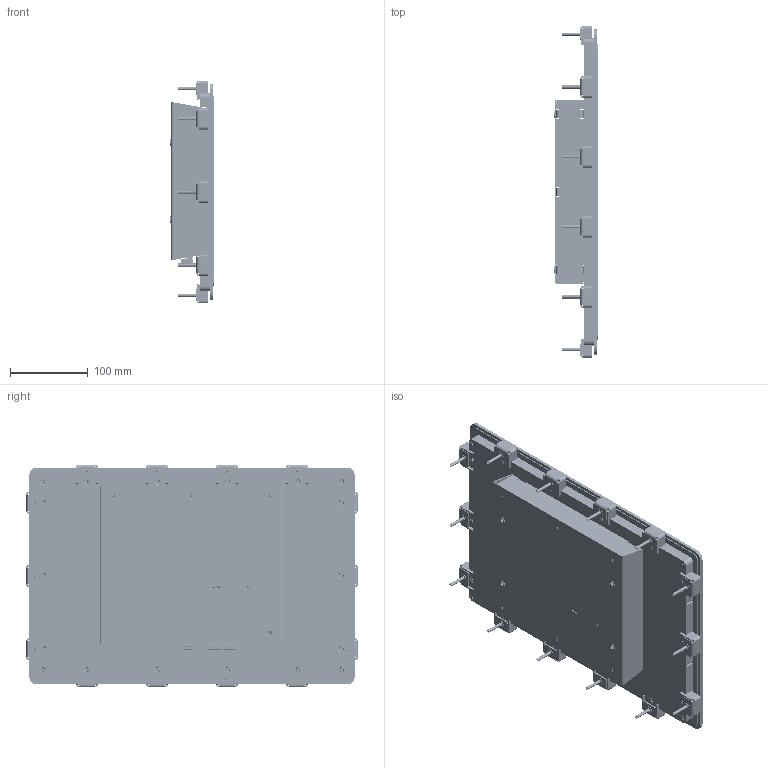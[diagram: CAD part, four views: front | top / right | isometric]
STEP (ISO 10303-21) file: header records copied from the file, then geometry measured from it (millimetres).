
FILE_DESCRIPTION(('STEP AP214'), '1');
FILE_NAME('NLcon-CED16', '', ('UNSPECIFIED'), ('UNSPECIFIED'), 'ASCON STEP Converter 1.6', 'ASCON Math Kernel', '');
FILE_SCHEMA(('AUTOMOTIVE_DESIGN { 1 0 10303 214 3 1 1}'));
Length unit declared in the file: millimetre
Assembly tree (2 placements, depth 2):
  (unnamed)
    (unnamed)
    (unnamed)
Bounding box: 55.45 x 427 x 287 mm (x, y, z)
Volume: 1459000.9 mm3; surface area: 970187.8 mm2
Topology: 17 solids, 18 shells, 10695 faces, 30013 edges, 19720 vertices
Faces by surface type: cylinder 5332, plane 5059, cone 164, torus 50, bspline 35, extrusion 31, sphere 24
Full cylindrical faces by diameter (mm): 1 x8, 1.1 x4, 1.4 x8, 2.5 x2, 3 x15, 3.18 x4, 3.242 x12, 3.3 x3, 3.6 x1, 3.95 x8, 4 x54, 4.2 x18, 4.75 x10, 5 x19, 5.5 x1, 5.6 x6, 6 x18, 6.5 x14, 6.8 x18, 9 x18
Entity records: 443990 total; most frequent: CARTESIAN_POINT 74714, DIRECTION 60978, ORIENTED_EDGE 59104, EDGE_CURVE 29552, AXIS2_PLACEMENT_3D 21536, VERTEX_POINT 19717, VECTOR 17906, LINE 17875
